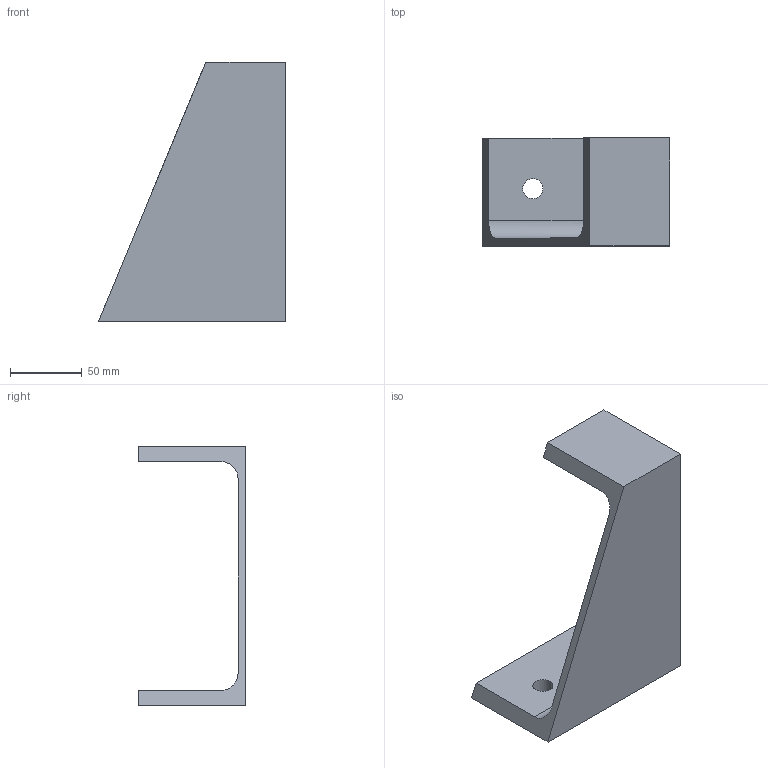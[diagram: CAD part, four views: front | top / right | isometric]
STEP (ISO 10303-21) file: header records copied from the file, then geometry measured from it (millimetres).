
FILE_DESCRIPTION (( 'STEP AP214' ), '1' );
FILE_NAME ('CCJ029-REP.38 - MONTANT ESCALIER INTERMEDIAIRE-PLANCHER SUP. SYM.STEP', '2024-01-10T14:34:18', ( '' ), ( '' ), 'SwSTEP 2.0', 'SolidWorks 2021', '' );
FILE_SCHEMA (( 'AUTOMOTIVE_DESIGN' ));
Length unit declared in the file: millimetre
Products named in the file (1): CCJ029-REP.38 - MONTANT ESCALIER INTERMEDIAIRE-PLANCHER SUP. SYM
Bounding box: 130 x 75 x 180 mm (x, y, z)
Volume: 229534.4 mm3; surface area: 64874.4 mm2
Topology: 1 solids, 1 shells, 65 faces, 171 edges, 114 vertices
Faces by surface type: bspline 40, plane 19, cylinder 6
Entity records: 4353 total; most frequent: CARTESIAN_POINT 2973, ORIENTED_EDGE 342, EDGE_CURVE 171, DIRECTION 151, VERTEX_POINT 114, B_SPLINE_CURVE_WITH_KNOTS 80, VECTOR 79, LINE 79
